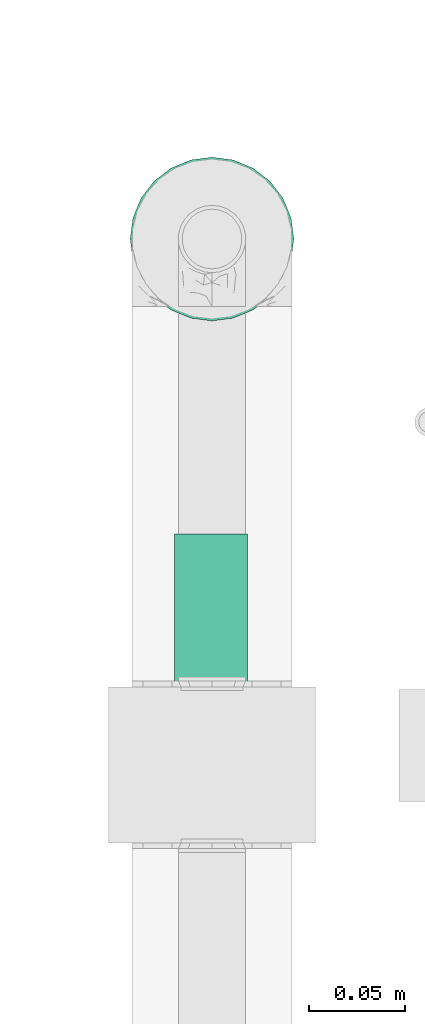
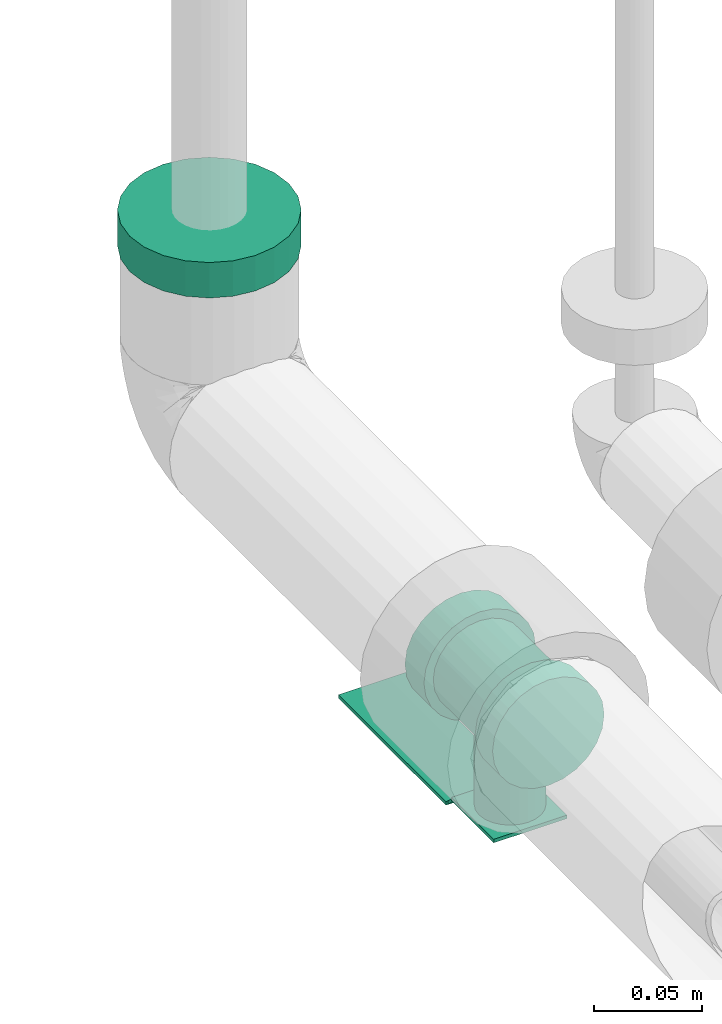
# One storey, part 49 of 78: 1 flow controller, 1 flow fitting.
"""IFC2X3 building model written with IfcOpenShell, lengths in millimetres."""

from ifc_helpers import new_model, entity, si_unit, converted_unit, derived_unit, direction, frame, origin_with_axes, place, context, subcontext, project, spatial, open_shell, surface_model, source, transform, mapped, type_object, element, save


model = new_model("IFC2X3")

# Units and contexts
model_context = context("Model", 3, precision=0.01, world=frame((0.0, 4.29681676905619e-09, 0.0)), true_north=direction((4.01073788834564e-13, 1.0)))
plan_context = context("Plan", 3, precision=0.01, world=frame((0.0, 4.29681676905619e-09, 0.0)), true_north=direction((4.01073788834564e-13, 1.0)))
body_context = subcontext(model_context, "Body", "Model", "MODEL_VIEW")
ifc_project = project(units=[converted_unit("PLANEANGLEUNIT", "DEGREE", entity("IfcPositiveLengthMeasure", 0.0174532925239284), si_unit("PLANEANGLEUNIT", "RADIAN"), dimensions=[0, 0, 0, 0, 0, 0, 0]), si_unit("AREAUNIT", "SQUARE_METRE"), si_unit("LENGTHUNIT", "METRE", prefix="MILLI"), si_unit("MASSUNIT", "GRAM", prefix="KILO"), si_unit("POWERUNIT", "WATT"), si_unit("PRESSUREUNIT", "PASCAL"), si_unit("FORCEUNIT", "NEWTON", prefix="KILO"), si_unit("ELECTRICVOLTAGEUNIT", "VOLT"), si_unit("ELECTRICCURRENTUNIT", "AMPERE"), si_unit("THERMODYNAMICTEMPERATUREUNIT", "DEGREE_CELSIUS"), si_unit("TIMEUNIT", "SECOND"), si_unit("VOLUMEUNIT", "CUBIC_METRE"), derived_unit("LINEARVELOCITYUNIT", [(si_unit("LENGTHUNIT", "METRE"), 1), (si_unit("TIMEUNIT", "SECOND"), -1)]), derived_unit("VOLUMETRICFLOWRATEUNIT", [(si_unit("VOLUMEUNIT", "CUBIC_METRE"), 1), (si_unit("TIMEUNIT", "SECOND"), -1)]), derived_unit("THERMALTRANSMITTANCEUNIT", [(si_unit("POWERUNIT", "WATT"), 1), (si_unit("THERMODYNAMICTEMPERATUREUNIT", "KELVIN"), -1), (si_unit("AREAUNIT", "SQUARE_METRE"), -1)]), derived_unit("SOUNDPRESSUREUNIT", [(si_unit("PRESSUREUNIT", "PASCAL"), 1)])], contexts=[model_context, plan_context])

# Site, building, storey
site_placement = place(None, frame((0.0, -4.29681676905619e-09, 0.0), z_axis=(0.0, 0.0, 1.0), x_axis=(1.0, 0.0, 0.0)))
site = spatial("IfcSite", under=ifc_project, at=site_placement, Name="ENGM", CompositionType="ELEMENT")
building_placement = place(site_placement, frame((0.0, 4.29681676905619e-09, 0.0), z_axis=(0.0, 0.0, 1.0), x_axis=(1.0, 0.0, 0.0)))
building = spatial("IfcBuilding", under=site, at=building_placement, Name="TH", CompositionType="ELEMENT")
storey_placement = place(building_placement, frame((0.0, 0.0, 205200.0), z_axis=(0.0, 0.0, 1.0), x_axis=(1.0, 0.0, 0.0)))
storey = spatial("IfcBuildingStorey", under=building, at=storey_placement, Name="Nivå D + 1,2 m", CompositionType="ELEMENT", Elevation=205200.0)

# Flow controller
valve_type = type_object("IfcValveType", Name="AT3600-32", PredefinedType="NOTDEFINED")
shared_shape_1 = source(origin_with_axes(), body_context, "Body", "SurfaceModel", [
    surface_model("IfcShellBasedSurfaceModel", [(13.434, -20.5, 64.0), (-25.566, -20.5, 64.0), (13.434, -20.5, 62.0), (-25.566, -20.5, 62.0), (13.434, 18.5, 64.0), (13.434, 18.5, 62.0), (-25.566, 18.5, 64.0), (-25.566, 18.5, 62.0), (22.9, -24.00326, -6.43165), (-24.5, -24.00326, -6.43165), (-24.5, -21.52073, -12.425), (-24.5, -17.5716, -17.5716), (22.9, -21.52073, -12.425), (22.9, -12.425, -21.52073), (-24.5, -12.425, -21.52073), (-24.5, -6.43165, -24.00326), (22.9, -17.5716, -17.5716), (22.9, -6.43165, -24.00326), (-24.5, 0.0, -24.85), (22.9, -24.85, 0.0), (-24.5, -24.85, 0.0), (22.9, 0.0, -24.85), (22.9, 6.43165, -24.00326), (-24.5, 6.43165, -24.00326), (-24.5, 12.425, -21.52073), (-24.5, 17.5716, -17.5716), (22.9, 12.425, -21.52073), (22.9, 21.52073, -12.425), (-24.5, 21.52073, -12.425), (-24.5, 24.00326, -6.43165), (22.9, 17.5716, -17.5716), (22.9, 24.00326, -6.43165), (-24.5, 24.85, 0.0), (22.9, 24.85, 0.0), (-24.5, 24.00326, 6.43165), (22.9, 24.00326, 6.43165), (-24.5, 21.52073, 12.425), (22.9, 21.52073, 12.425), (-24.5, 6.43165, 24.00326), (-24.5, 0.0, 24.85), (22.9, 6.43165, 24.00326), (-24.5, 17.5716, 17.5716), (22.9, 17.5716, 17.5716), (-24.5, 12.425, 21.52073), (22.9, 12.425, 21.52073), (22.9, 0.0, 24.85), (22.9, -6.43165, 24.00326), (-24.5, -6.43165, 24.00326), (-24.5, -12.425, 21.52073), (-24.5, -17.5716, 17.5716), (22.9, -12.425, 21.52073), (22.9, -21.52073, 12.425), (-24.5, -21.52073, 12.425), (-24.5, -24.00326, 6.43165), (22.9, -17.5716, 17.5716), (22.9, -24.00326, 6.43165), (22.9, 7.71798, 28.80391), (22.9, -14.91, 25.82488), (22.9, 0.0, 29.82), (22.9, 21.08592, 21.08592), (22.9, 14.91, 25.82488), (22.9, 25.82488, 14.91), (22.9, 25.82488, -14.91), (22.9, -25.82488, 14.91), (22.9, -21.08592, 21.08592), (22.9, -7.71798, 28.80391), (22.9, -29.82, 0.0), (22.9, -28.80391, 7.71798), (22.9, -25.82488, -14.91), (22.9, 28.80391, 7.71798), (22.9, 29.82, 0.0), (22.9, 28.80391, -7.71798), (22.9, 14.91, -25.82488), (22.9, 21.08592, -21.08592), (22.9, 7.71798, -28.80391), (22.9, -14.91, -25.82488), (22.9, -21.08592, -21.08592), (22.9, -28.80391, -7.71798), (22.9, 0.0, -29.82), (22.9, -7.71798, -28.80391), (40.5, 14.91, -25.82488), (40.5, 0.0, -29.82), (40.5, 7.71798, -28.80391), (40.5, 25.82488, -14.91), (40.5, 21.08592, -21.08592), (40.5, 28.80391, -7.71798), (40.5, 29.82, 0.0), (40.5, 25.82488, 14.91), (40.5, -25.82488, -14.91), (40.5, -14.91, -25.82488), (40.5, -7.71798, -28.80391), (40.5, -21.08592, -21.08592), (40.5, -29.82, 0.0), (40.5, -28.80391, -7.71798), (40.5, 7.71798, 28.80391), (40.5, 21.08592, 21.08592), (40.5, -14.91, 25.82488), (40.5, 14.91, 25.82488), (40.5, 0.0, 29.82), (40.5, -25.82488, 14.91), (40.5, -28.80391, 7.71798), (40.5, -21.08592, 21.08592), (40.5, -7.71798, 28.80391), (40.5, 28.80391, 7.71798), (-24.5, 7.71798, -28.80391), (-24.5, -14.91, -25.82488), (-24.5, 0.0, -29.82), (-24.5, 25.82488, -14.91), (-24.5, 14.91, -25.82488), (-24.5, 21.08592, -21.08592), (-24.5, 28.80391, -7.71798), (-24.5, -25.82488, -14.91), (-24.5, -21.08592, -21.08592), (-24.5, -7.71798, -28.80391), (-24.5, -28.80391, -7.71798), (-24.5, -28.80391, 7.71798), (-24.5, -29.82, 0.0), (-24.5, 7.71798, 28.80391), (-24.5, 29.82, 0.0), (-24.5, 28.80391, 7.71798), (-24.5, 21.08592, 21.08592), (-24.5, 25.82488, 14.91), (-24.5, 14.91, 25.82488), (-24.5, -25.82488, 14.91), (-24.5, 0.0, 29.82), (-24.5, -21.08592, 21.08592), (-24.5, -7.71798, 28.80391), (-24.5, -14.91, 25.82488), (-40.5, 21.08592, 21.08592), (-40.5, 0.0, 29.82), (-40.5, 7.71798, 28.80391), (-40.5, 14.91, 25.82488), (-40.5, 25.82488, 14.91), (-40.5, 28.80391, 7.71798), (-40.5, -25.82488, 14.91), (-40.5, -7.71798, 28.80391), (-40.5, -21.08592, 21.08592), (-40.5, -14.91, 25.82488), (-40.5, -28.80391, 7.71798), (-40.5, -28.80391, -7.71798), (-40.5, -29.82, 0.0), (-40.5, 29.82, 0.0), (-40.5, 28.80391, -7.71798), (-40.5, 25.82488, -14.91), (-40.5, 14.91, -25.82488), (-40.5, 7.71798, -28.80391), (-40.5, 21.08592, -21.08592), (-40.5, -25.82488, -14.91), (-40.5, -14.91, -25.82488), (-40.5, -21.08592, -21.08592), (-40.5, 0.0, -29.82), (-40.5, -7.71798, -28.80391), (3.229, -14.36736, 62.0), (-13.361, -14.36736, 62.0), (-0.77219, -16.02471, 62.0), (9.30136, -8.295, 62.0), (6.6649, -11.7309, 62.0), (10.95871, -4.29381, 62.0), (-19.43336, -8.295, 62.0), (6.6649, 11.7309, 62.0), (-5.066, -16.59, 62.0), (-9.35981, -16.02471, 62.0), (-16.7969, -11.7309, 62.0), (-21.656, 0.0, 62.0), (-21.09071, -4.29381, 62.0), (11.524, 0.0, 62.0), (10.95871, 4.29381, 62.0), (9.30136, 8.295, 62.0), (3.229, 14.36736, 62.0), (-0.77219, 16.02471, 62.0), (-5.066, 16.59, 62.0), (-21.09071, 4.29381, 62.0), (-16.7969, 11.7309, 62.0), (-19.43336, 8.295, 62.0), (-9.35981, 16.02471, 62.0), (-13.361, 14.36736, 62.0), (-5.066, 16.59, 0.0), (-0.77219, 16.02471, 0.0), (3.229, 14.36736, 0.0), (6.6649, 11.7309, 0.0), (9.30136, 8.295, 0.0), (-9.35981, 16.02471, 0.0), (10.95871, -4.29381, 0.0), (-16.7969, 11.7309, 0.0), (-13.361, 14.36736, 0.0), (-21.656, 0.0, 0.0), (-21.09071, 4.29381, 0.0), (-19.43336, 8.295, 0.0), (10.95871, 4.29381, 0.0), (-0.77219, -16.02471, 0.0), (6.6649, -11.7309, 0.0), (9.30136, -8.295, 0.0), (3.229, -14.36736, 0.0), (-13.361, -14.36736, 0.0), (-19.43336, -8.295, 0.0), (-16.7969, -11.7309, 0.0), (-21.09071, -4.29381, 0.0), (-5.066, -16.59, 0.0), (-9.35981, -16.02471, 0.0), (11.524, 0.0, 0.0), (20.434, -18.5, 69.0), (20.434, -18.5, 71.0), (13.434, -18.5, 64.0), (13.434, -18.5, 62.0), (20.434, 18.5, 69.0), (20.434, 18.5, 71.0), (119.934, -19.5, 71.0), (20.434, -19.5, 71.0), (119.934, -19.5, 69.0), (20.434, -19.5, 69.0), (119.934, 18.5, 69.0), (119.934, 18.5, 71.0)], [open_shell([[[0, 1, 2]], [[3, 2, 1]], [[4, 0, 5]], [[2, 5, 0]], [[6, 4, 7]], [[5, 7, 4]], [[1, 6, 3]], [[7, 3, 6]], [[8, 9, 10]], [[11, 12, 10]], [[13, 14, 15]], [[11, 14, 16]], [[17, 15, 18]], [[9, 19, 20]], [[9, 8, 19]], [[10, 12, 8]], [[11, 16, 12]], [[13, 16, 14]], [[15, 17, 13]], [[18, 21, 17]], [[22, 23, 24]], [[25, 26, 24]], [[27, 28, 29]], [[25, 28, 30]], [[31, 29, 32]], [[23, 22, 21]], [[24, 26, 22]], [[25, 30, 26]], [[28, 27, 30]], [[31, 27, 29]], [[32, 33, 31]], [[23, 21, 18]], [[34, 35, 32]], [[36, 37, 34]], [[38, 39, 40]], [[41, 42, 36]], [[34, 37, 35]], [[35, 33, 32]], [[43, 44, 42]], [[43, 38, 44]], [[38, 40, 44]], [[42, 37, 36]], [[42, 41, 43]], [[39, 45, 40]], [[46, 47, 48]], [[49, 50, 48]], [[51, 52, 53]], [[49, 52, 54]], [[55, 53, 20]], [[47, 46, 45]], [[48, 50, 46]], [[49, 54, 50]], [[52, 51, 54]], [[55, 51, 53]], [[20, 19, 55]], [[47, 45, 39]], [[56, 57, 58]], [[59, 56, 60]], [[57, 56, 61]], [[61, 56, 59]], [[62, 57, 61]], [[57, 63, 64]], [[57, 65, 58]], [[63, 66, 67]], [[62, 63, 57]], [[68, 66, 63]], [[69, 70, 61]], [[70, 71, 62]], [[72, 63, 62]], [[63, 72, 68]], [[72, 62, 73]], [[68, 72, 74]], [[68, 75, 76]], [[77, 66, 68]], [[75, 78, 79]], [[78, 75, 68]], [[74, 78, 68]], [[62, 61, 70]], [[80, 81, 82]], [[83, 80, 84]], [[83, 85, 86]], [[81, 80, 83]], [[87, 88, 83]], [[81, 89, 90]], [[89, 81, 88]], [[89, 88, 91]], [[81, 83, 88]], [[88, 92, 93]], [[87, 83, 86]], [[88, 87, 94]], [[94, 87, 95]], [[96, 88, 94]], [[94, 95, 97]], [[98, 96, 94]], [[92, 99, 100]], [[92, 88, 99]], [[99, 96, 101]], [[96, 99, 88]], [[98, 102, 96]], [[87, 86, 103]], [[69, 103, 70]], [[61, 87, 69]], [[97, 59, 60]], [[61, 59, 95]], [[94, 60, 56]], [[69, 87, 103]], [[103, 86, 70]], [[94, 97, 60]], [[95, 59, 97]], [[95, 87, 61]], [[98, 94, 56]], [[56, 58, 98]], [[65, 102, 58]], [[57, 96, 65]], [[63, 99, 64]], [[64, 101, 57]], [[57, 101, 96]], [[96, 102, 65]], [[100, 67, 92]], [[100, 99, 63]], [[67, 66, 92]], [[99, 101, 64]], [[63, 67, 100]], [[58, 102, 98]], [[77, 93, 66]], [[68, 88, 77]], [[89, 76, 75]], [[68, 76, 91]], [[90, 75, 79]], [[77, 88, 93]], [[93, 92, 66]], [[90, 89, 75]], [[91, 76, 89]], [[91, 88, 68]], [[81, 90, 79]], [[79, 78, 81]], [[74, 82, 78]], [[72, 80, 74]], [[83, 73, 62]], [[72, 73, 84]], [[85, 62, 71]], [[72, 84, 80]], [[80, 82, 74]], [[86, 85, 71]], [[83, 62, 85]], [[83, 84, 73]], [[70, 86, 71]], [[78, 82, 81]], [[104, 105, 106]], [[107, 104, 108]], [[105, 104, 107]], [[107, 108, 109]], [[105, 107, 110]], [[105, 111, 112]], [[105, 113, 106]], [[110, 111, 105]], [[114, 111, 110]], [[114, 115, 116]], [[114, 110, 117]], [[117, 118, 119]], [[120, 119, 121]], [[120, 122, 117]], [[120, 117, 119]], [[117, 115, 114]], [[123, 124, 125]], [[124, 123, 115]], [[125, 126, 127]], [[126, 125, 124]], [[115, 117, 124]], [[117, 110, 118]], [[128, 129, 130]], [[128, 130, 131]], [[128, 132, 133]], [[129, 128, 134]], [[134, 128, 133]], [[135, 136, 137]], [[135, 129, 136]], [[134, 136, 129]], [[133, 138, 134]], [[138, 139, 140]], [[138, 133, 141]], [[141, 142, 143]], [[139, 141, 143]], [[144, 145, 143]], [[144, 143, 146]], [[139, 143, 145]], [[147, 148, 149]], [[147, 139, 145]], [[148, 150, 151]], [[147, 145, 148]], [[145, 150, 148]], [[141, 139, 138]], [[139, 114, 140]], [[147, 111, 139]], [[105, 149, 148]], [[147, 149, 112]], [[113, 148, 151]], [[139, 111, 114]], [[114, 116, 140]], [[113, 105, 148]], [[112, 149, 105]], [[112, 111, 147]], [[106, 113, 151]], [[151, 150, 106]], [[145, 104, 150]], [[144, 108, 145]], [[107, 146, 143]], [[144, 146, 109]], [[110, 143, 142]], [[144, 109, 108]], [[108, 104, 145]], [[118, 110, 142]], [[107, 143, 110]], [[107, 109, 146]], [[141, 118, 142]], [[150, 104, 106]], [[133, 119, 141]], [[132, 121, 133]], [[122, 128, 131]], [[132, 128, 120]], [[117, 131, 130]], [[133, 121, 119]], [[119, 118, 141]], [[117, 122, 131]], [[120, 128, 122]], [[120, 121, 132]], [[124, 117, 130]], [[130, 129, 124]], [[135, 126, 129]], [[137, 127, 135]], [[123, 136, 134]], [[137, 136, 125]], [[115, 134, 138]], [[137, 125, 127]], [[127, 126, 135]], [[116, 115, 138]], [[123, 134, 115]], [[123, 125, 136]], [[140, 116, 138]], [[129, 126, 124]], [[27, 22, 26]], [[27, 26, 30]], [[22, 31, 8]], [[31, 22, 27]], [[37, 8, 31]], [[22, 17, 21]], [[22, 13, 17]], [[16, 8, 12]], [[8, 16, 13]], [[22, 8, 13]], [[31, 33, 35]], [[37, 42, 8]], [[19, 8, 42]], [[44, 40, 45]], [[19, 42, 44]], [[46, 44, 45]], [[19, 51, 55]], [[19, 44, 51]], [[51, 50, 54]], [[50, 51, 46]], [[44, 46, 51]], [[37, 31, 35]], [[39, 38, 43]], [[39, 43, 41]], [[41, 36, 34]], [[41, 34, 39]], [[39, 34, 47]], [[48, 52, 49]], [[52, 48, 47]], [[52, 20, 53]], [[9, 20, 52]], [[9, 52, 47]], [[47, 34, 29]], [[9, 47, 29]], [[23, 29, 28]], [[24, 23, 28]], [[24, 28, 25]], [[9, 29, 23]], [[9, 11, 10]], [[11, 9, 14]], [[23, 15, 14]], [[14, 9, 23]], [[18, 15, 23]], [[29, 34, 32]], [[152, 153, 154]], [[155, 152, 156]], [[152, 157, 158]], [[157, 152, 155]], [[158, 157, 159]], [[160, 153, 161]], [[160, 154, 153]], [[152, 162, 153]], [[158, 162, 152]], [[158, 163, 164]], [[157, 165, 166]], [[157, 167, 159]], [[158, 159, 168]], [[168, 169, 170]], [[168, 163, 158]], [[168, 170, 163]], [[171, 172, 173]], [[172, 171, 163]], [[172, 174, 175]], [[172, 163, 170]], [[170, 174, 172]], [[167, 157, 166]], [[176, 177, 178]], [[176, 178, 179]], [[176, 180, 181]], [[180, 176, 179]], [[182, 181, 180]], [[181, 183, 184]], [[185, 183, 182]], [[183, 186, 187]], [[186, 183, 185]], [[182, 183, 181]], [[182, 180, 188]], [[182, 189, 185]], [[190, 182, 191]], [[192, 189, 182]], [[192, 182, 190]], [[185, 189, 193]], [[194, 193, 195]], [[196, 185, 194]], [[193, 197, 198]], [[194, 185, 193]], [[197, 193, 189]], [[188, 199, 182]], [[164, 196, 194]], [[195, 158, 194]], [[153, 193, 198]], [[195, 193, 162]], [[161, 198, 197]], [[196, 163, 185]], [[196, 164, 163]], [[194, 158, 164]], [[195, 162, 158]], [[153, 162, 193]], [[198, 161, 153]], [[197, 160, 161]], [[154, 189, 192]], [[190, 152, 192]], [[155, 191, 182]], [[190, 191, 156]], [[157, 182, 199]], [[189, 154, 160]], [[192, 152, 154]], [[190, 156, 152]], [[191, 155, 156]], [[157, 155, 182]], [[199, 165, 157]], [[189, 160, 197]], [[166, 199, 188]], [[168, 178, 177]], [[178, 159, 179]], [[169, 177, 176]], [[188, 167, 166]], [[166, 165, 199]], [[180, 159, 167]], [[180, 179, 159]], [[159, 178, 168]], [[177, 169, 168]], [[180, 167, 188]], [[176, 170, 169]], [[174, 181, 184]], [[183, 175, 184]], [[173, 187, 186]], [[183, 187, 172]], [[171, 186, 185]], [[181, 174, 170]], [[184, 175, 174]], [[183, 172, 175]], [[187, 173, 172]], [[171, 173, 186]], [[185, 163, 171]], [[181, 170, 176]], [[6, 1, 0]], [[0, 4, 6]], [[5, 2, 7]], [[3, 7, 2]], [[200, 201, 202]], [[202, 203, 200]], [[5, 4, 204]], [[205, 204, 4]], [[205, 4, 202]], [[202, 201, 205]], [[204, 205, 201]], [[201, 200, 204]], [[5, 204, 200]], [[200, 203, 5]], [[4, 5, 203]], [[203, 202, 4]], [[206, 207, 208]], [[209, 208, 207]], [[210, 204, 205]], [[205, 211, 210]], [[205, 204, 209]], [[209, 207, 205]], [[211, 205, 207]], [[207, 206, 211]], [[210, 211, 206]], [[206, 208, 210]], [[204, 210, 209]], [[208, 209, 210]]])]),
])
flow_controller_placement = place(storey_placement, frame((895369.5, 478407.95641, 4450.0), z_axis=(0.0, 3.999999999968e-06, -0.999999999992), x_axis=(0.0, 0.999999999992, 3.999999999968e-06)))
element("IfcFlowController", 1, at=flow_controller_placement, inside=storey, type_object=valve_type, Name="AT3600-32", context=body_context, shape_type="MappedRepresentation", body=[
    mapped(shared_shape_1, transform((0.0, 0.0, 0.0), scale=1.0)),
])

# Flow fitting
pipe_fitting_type = type_object("IfcPipeFittingType", Name="magi_pipe_cu_joint_001", PredefinedType="CONNECTOR")
shared_shape_2 = source(origin_with_axes(), body_context, "Body", "SurfaceModel", [
    surface_model("IfcShellBasedSurfaceModel", [(0.0, 0.0, -17.5), (0.0, -12.37437, -12.37437), (0.0, 4.52933, -16.9037), (0.0, 8.75, -15.15544), (0.0, 12.37437, -12.37437), (0.0, 16.9037, -4.52933), (0.0, 15.15544, -8.75), (0.0, -16.9037, -4.52933), (0.0, 8.75, 15.15544), (0.0, -4.52933, -16.9037), (0.0, -8.75, -15.15544), (0.0, -15.15544, -8.75), (0.0, -17.5, 0.0), (0.0, 4.52933, 16.9037), (0.0, 15.15544, 8.75), (0.0, 16.9037, 4.52933), (0.0, 12.37437, 12.37437), (0.0, 0.0, 17.5), (0.0, -16.9037, 4.52933), (0.0, -15.15544, 8.75), (0.0, -12.37437, 12.37437), (0.0, -8.75, 15.15544), (0.0, -4.52933, 16.9037), (0.0, 17.5, 0.0), (0.0, -21.25, 36.80608), (0.0, -10.99981, 41.05185), (0.0, -30.05204, 30.05204), (0.0, 0.0, -42.5), (0.0, -10.99981, -41.05185), (0.0, 10.99981, -41.05185), (0.0, -30.05204, -30.05204), (0.0, 21.25, -36.80608), (0.0, 41.05185, -10.99981), (0.0, 36.80608, -21.25), (0.0, 30.05204, -30.05204), (0.0, -36.80608, -21.25), (0.0, -21.25, -36.80608), (0.0, -41.05185, -10.99981), (0.0, -42.5, 0.0), (0.0, -41.05185, 10.99981), (0.0, 36.80608, 21.25), (0.0, 41.05185, 10.99981), (0.0, 42.5, 0.0), (0.0, 0.0, 42.5), (0.0, 21.25, 36.80608), (0.0, 30.05204, 30.05204), (0.0, 10.99981, 41.05185), (0.0, -36.80608, 21.25), (20.0, 10.99981, -41.05185), (20.0, -10.99981, -41.05185), (20.0, 0.0, -42.5), (20.0, 21.25, -36.80608), (20.0, -30.05204, -30.05204), (20.0, 30.05204, -30.05204), (20.0, 36.80608, -21.25), (20.0, 41.05185, -10.99981), (20.0, -36.80608, -21.25), (20.0, -21.25, -36.80608), (20.0, -42.5, 0.0), (20.0, -41.05185, -10.99981), (20.0, -41.05185, 10.99981), (20.0, 42.5, 0.0), (20.0, 41.05185, 10.99981), (20.0, 36.80608, 21.25), (20.0, -10.99981, 41.05185), (20.0, 21.25, 36.80608), (20.0, 0.0, 42.5), (20.0, 30.05204, 30.05204), (20.0, 10.99981, 41.05185), (20.0, -30.05204, 30.05204), (20.0, -36.80608, 21.25), (20.0, -21.25, 36.80608), (20.0, 0.0, -17.5), (20.0, 4.52933, -16.9037), (20.0, 8.75, -15.15544), (20.0, -12.37437, -12.37437), (20.0, 12.37437, -12.37437), (20.0, 15.15544, -8.75), (20.0, 16.9037, -4.52933), (20.0, 8.75, 15.15544), (20.0, -16.9037, -4.52933), (20.0, -4.52933, -16.9037), (20.0, -8.75, -15.15544), (20.0, -15.15544, -8.75), (20.0, -17.5, 0.0), (20.0, 16.9037, 4.52933), (20.0, 15.15544, 8.75), (20.0, 4.52933, 16.9037), (20.0, 12.37437, 12.37437), (20.0, 0.0, 17.5), (20.0, -15.15544, 8.75), (20.0, -16.9037, 4.52933), (20.0, -12.37437, 12.37437), (20.0, -4.52933, 16.9037), (20.0, -8.75, 15.15544), (20.0, 17.5, 0.0)], [open_shell([[[0, 1, 2]], [[3, 2, 4]], [[5, 6, 4]], [[1, 4, 2]], [[7, 8, 4]], [[9, 10, 0]], [[10, 1, 0]], [[11, 7, 1]], [[1, 7, 4]], [[12, 13, 7]], [[5, 4, 8]], [[14, 15, 5]], [[8, 14, 5]], [[8, 7, 13]], [[16, 14, 8]], [[13, 12, 17]], [[18, 19, 12]], [[19, 20, 12]], [[21, 22, 20]], [[17, 20, 22]], [[12, 20, 17]], [[23, 5, 15]], [[24, 25, 26]], [[27, 28, 29]], [[29, 30, 31]], [[32, 33, 34]], [[35, 34, 31]], [[35, 32, 34]], [[36, 30, 28]], [[30, 29, 28]], [[37, 38, 35]], [[31, 30, 35]], [[32, 35, 38]], [[38, 39, 32]], [[40, 41, 42]], [[39, 40, 32]], [[43, 44, 40]], [[45, 40, 44]], [[44, 43, 46]], [[47, 26, 39]], [[26, 40, 39]], [[26, 25, 40]], [[25, 43, 40]], [[42, 32, 40]], [[48, 49, 50]], [[51, 52, 48]], [[53, 54, 55]], [[51, 53, 56]], [[53, 55, 56]], [[49, 52, 57]], [[49, 48, 52]], [[56, 58, 59]], [[56, 52, 51]], [[58, 56, 55]], [[55, 60, 58]], [[61, 62, 63]], [[64, 61, 63]], [[63, 65, 66]], [[65, 63, 67]], [[68, 66, 65]], [[60, 69, 70]], [[60, 61, 69]], [[69, 64, 71]], [[61, 64, 69]], [[63, 66, 64]], [[61, 60, 55]], [[60, 38, 58]], [[70, 39, 60]], [[26, 69, 71]], [[70, 69, 47]], [[24, 71, 64]], [[70, 47, 39]], [[39, 38, 60]], [[25, 66, 43]], [[25, 24, 64]], [[26, 71, 24]], [[26, 47, 69]], [[66, 25, 64]], [[65, 46, 68]], [[67, 44, 65]], [[40, 63, 62]], [[67, 63, 45]], [[41, 62, 61]], [[65, 44, 46]], [[46, 43, 68]], [[41, 40, 62]], [[45, 63, 40]], [[45, 44, 67]], [[42, 41, 61]], [[68, 43, 66]], [[55, 42, 61]], [[54, 32, 55]], [[34, 53, 51]], [[54, 53, 33]], [[31, 51, 48]], [[54, 33, 32]], [[32, 42, 55]], [[29, 50, 27]], [[29, 31, 48]], [[34, 51, 31]], [[34, 33, 53]], [[50, 29, 48]], [[57, 28, 49]], [[52, 36, 57]], [[56, 59, 35]], [[52, 56, 30]], [[38, 59, 58]], [[57, 36, 28]], [[28, 27, 49]], [[37, 35, 59]], [[30, 56, 35]], [[30, 36, 52]], [[38, 37, 59]], [[49, 27, 50]], [[72, 73, 74]], [[75, 72, 74]], [[76, 77, 78]], [[74, 76, 75]], [[76, 79, 80]], [[81, 75, 82]], [[81, 72, 75]], [[75, 80, 83]], [[76, 80, 75]], [[80, 79, 84]], [[79, 76, 78]], [[78, 85, 79]], [[79, 85, 86]], [[87, 84, 79]], [[79, 86, 88]], [[84, 87, 89]], [[84, 90, 91]], [[84, 92, 90]], [[92, 93, 94]], [[92, 84, 93]], [[93, 84, 89]], [[85, 78, 95]], [[91, 12, 84]], [[90, 18, 91]], [[20, 92, 94]], [[90, 92, 19]], [[21, 94, 93]], [[90, 19, 18]], [[18, 12, 91]], [[22, 89, 17]], [[22, 21, 93]], [[20, 94, 21]], [[20, 19, 92]], [[89, 22, 93]], [[79, 13, 87]], [[88, 8, 79]], [[85, 95, 15]], [[86, 16, 88]], [[15, 86, 85]], [[79, 8, 13]], [[13, 17, 87]], [[14, 16, 86]], [[15, 95, 23]], [[16, 8, 88]], [[86, 15, 14]], [[87, 17, 89]], [[78, 23, 95]], [[77, 5, 78]], [[4, 76, 74]], [[77, 76, 6]], [[3, 74, 73]], [[77, 6, 5]], [[5, 23, 78]], [[2, 72, 0]], [[2, 3, 73]], [[4, 74, 3]], [[4, 6, 76]], [[72, 2, 73]], [[1, 82, 75]], [[81, 82, 10]], [[7, 83, 80]], [[75, 83, 11]], [[12, 80, 84]], [[81, 9, 0]], [[9, 81, 10]], [[10, 82, 1]], [[75, 11, 1]], [[7, 11, 83]], [[80, 12, 7]], [[81, 0, 72]]])]),
])
flow_fitting_placement = place(storey_placement, frame((895369.5, 478680.9125, 4535.0), z_axis=(1.0, 0.0, 0.0), x_axis=(0.0, 0.0, 1.0)))
element("IfcFlowFitting", 2, at=flow_fitting_placement, inside=storey, type_object=pipe_fitting_type, Name="magi_pipe_cu_joint_001", context=body_context, shape_type="MappedRepresentation", body=[
    mapped(shared_shape_2, transform((0.0, 0.0, 0.0), scale=1.0)),
])

save(model, "model.ifc")
